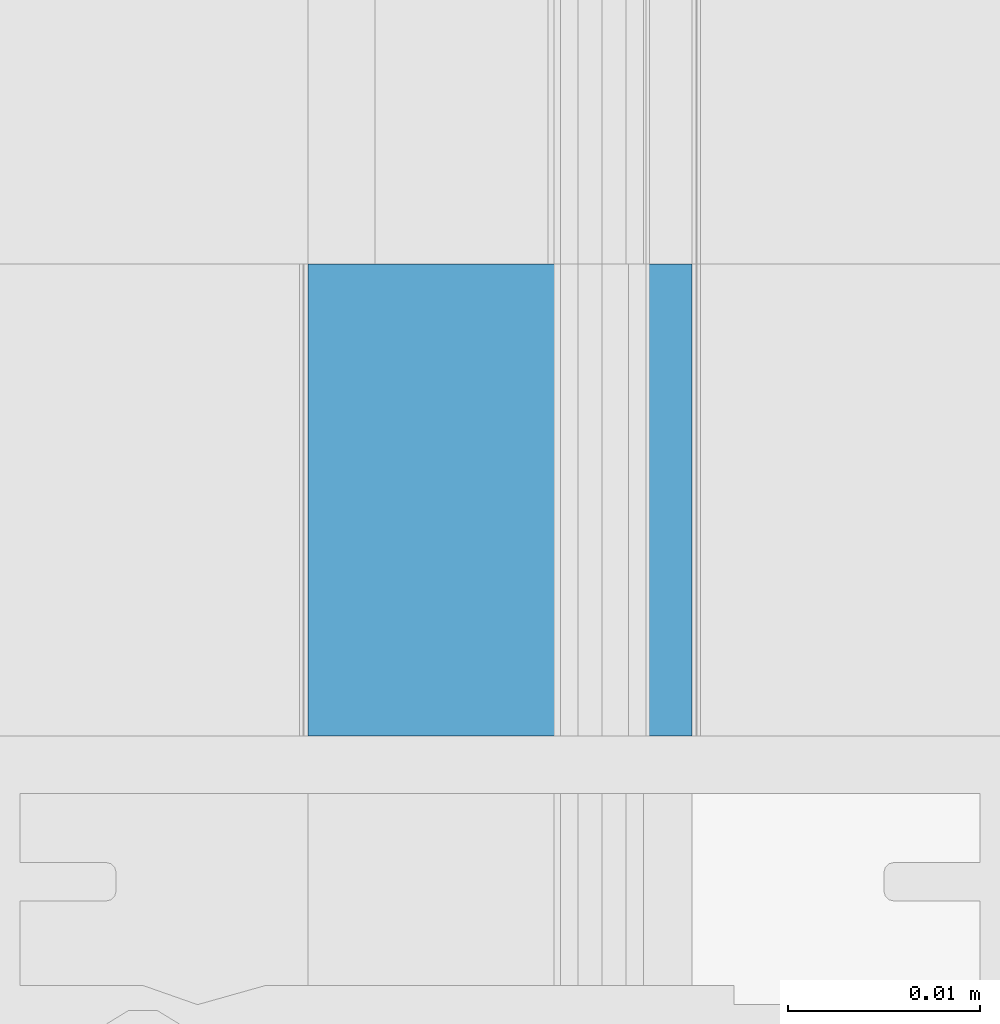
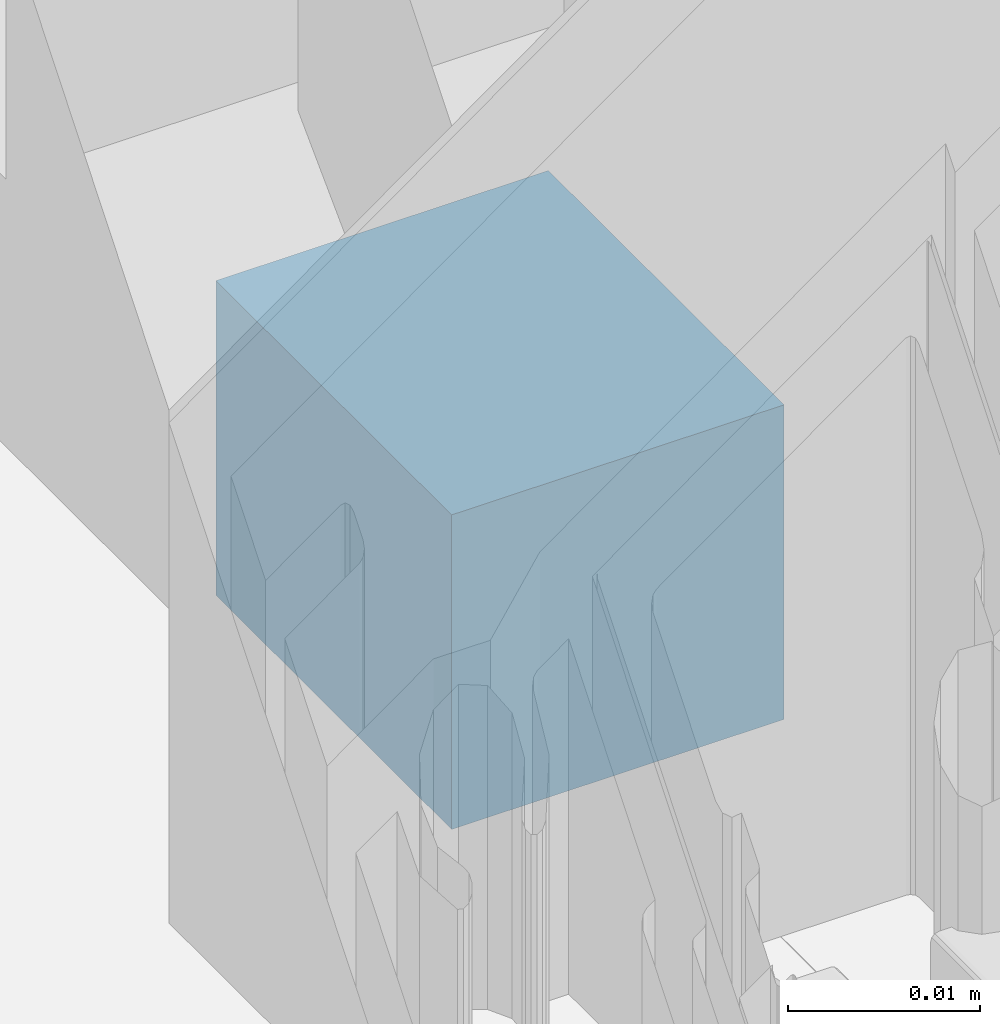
# One storey, part 21 of 387: 1 member, 1 element without a shape of its own.
"""IFC2X3 building model written with IfcOpenShell, lengths in millimetres."""

from ifc_helpers import new_model, entity, si_unit, converted_unit, derived_unit, money_unit, direction, frame, origin_with_axes, place, context, subcontext, project, spatial, polyline, outline, extrude, material, type_object, element, aggregate, save


model = new_model("IFC2X3")

# Units and contexts
model_context = context("Model", 3, precision=0.01, world=origin_with_axes(), true_north=direction((0.0, 1.0)))
body_context = subcontext(model_context, "Body", "Model", "MODEL_VIEW")
ifc_project = project(units=[si_unit("LENGTHUNIT", "METRE", prefix="MILLI"), si_unit("AREAUNIT", "SQUARE_METRE"), si_unit("VOLUMEUNIT", "CUBIC_METRE"), converted_unit("PLANEANGLEUNIT", "DEGREE", entity("IfcPlaneAngleMeasure", 0.0174532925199), si_unit("PLANEANGLEUNIT", "RADIAN"), dimensions=[0, 0, 0, 0, 0, 0, 0]), si_unit("SOLIDANGLEUNIT", "STERADIAN"), money_unit("EUR"), converted_unit("TIMEUNIT", "Year", entity("IfcTimeMeasure", 31556926.0), si_unit("TIMEUNIT", "SECOND"), dimensions=[0, 0, 1, 0, 0, 0, 0]), si_unit("MASSUNIT", "GRAM", prefix="KILO"), si_unit("THERMODYNAMICTEMPERATUREUNIT", "DEGREE_CELSIUS"), si_unit("LUMINOUSINTENSITYUNIT", "LUMEN"), si_unit("ENERGYUNIT", "JOULE", prefix="MEGA"), derived_unit("THERMALCONDUCTANCEUNIT", [(si_unit("POWERUNIT", "WATT"), 1), (si_unit("LENGTHUNIT", "METRE"), -1), (si_unit("THERMODYNAMICTEMPERATUREUNIT", "KELVIN"), -1)]), derived_unit("SPECIFICHEATCAPACITYUNIT", [(si_unit("ENERGYUNIT", "JOULE"), 1), (si_unit("MASSUNIT", "GRAM", prefix="KILO"), -1), (si_unit("THERMODYNAMICTEMPERATUREUNIT", "KELVIN"), -1)]), derived_unit("MASSDENSITYUNIT", [(si_unit("MASSUNIT", "GRAM", prefix="KILO"), 1), (si_unit("VOLUMEUNIT", "CUBIC_METRE"), -1)])], contexts=[model_context])

# Site, building, storey
site_placement = place(None, origin_with_axes())
site = spatial("IfcSite", under=ifc_project, at=site_placement, Name="Puškini 31, Narva", CompositionType="ELEMENT")
building_placement = place(site_placement, origin_with_axes())
building = spatial("IfcBuilding", under=site, at=building_placement, Name="Narva Riigigümnaasium", CompositionType="ELEMENT")
storey_placement = place(building_placement, frame((0.0, 0.0, 2640.0), z_axis=(0.0, 0.0, 1.0), x_axis=(1.0, 0.0, 0.0)))
storey = spatial("IfcBuildingStorey", under=building, at=storey_placement, Name="2.korrus +2.64", CompositionType="ELEMENT", Elevation=2640.0)

# Curtain wall, member
curtain_wall_type = type_object("IfcCurtainWallType", Name="Curtain Wall Type", PredefinedType="NOTDEFINED")
curtain_wall_placement = place(storey_placement, frame((28390.0000002, 176724.161139, -5.42380846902e-05), z_axis=(0.0, 0.0, 1.0), x_axis=(1.0, 0.0, 0.0)))
curtain_wall = element("IfcCurtainWall", 1, at=curtain_wall_placement, inside=storey, type_object=curtain_wall_type, Name="G-SKLF-12")
ifc_material = material(Name="ET-04_Alumiinium")
member_type = type_object("IfcMemberType", Name="20 x 20", PredefinedType="MULLION")
member_placement = place(curtain_wall_placement, frame((4.37694325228e-09, -283.621785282, 0.0), z_axis=(0.0, -1.0, 0.0), x_axis=(0.0, 0.0, 1.0)))
member = element("IfcMember", 2, at=member_placement, type_object=member_type, material=ifc_material, Name="G-SKLF-15-raam", ObjectType="MULLION", context=body_context, shape_type="SweptSolid", body=[
    extrude(outline(polyline([(10.0000000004, -20.0), (10.0000000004, 0.0), (-9.99999999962, 0.0), (-9.99999999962, -20.0), (10.0000000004, -20.0)])), frame((0.0, 0.0, -1.42108547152e-10), z_axis=(0.0, 0.0, 1.0), x_axis=(0.0, 1.0, 0.0)), (0.0, 0.0, 1.0), 24.5673223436),
])
aggregate(curtain_wall, [member])

save(model, "model.ifc")
